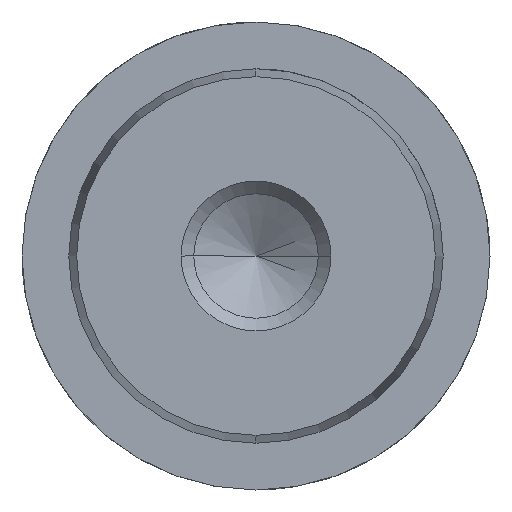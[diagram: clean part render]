
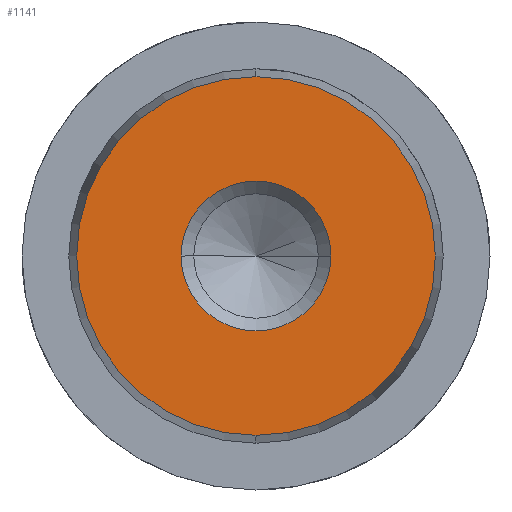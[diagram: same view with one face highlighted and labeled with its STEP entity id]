
A CAD part, left-side view. The second image highlights one B-rep face of the part: STEP entity #1141.
In plain terms, the highlighted planar face has unit normal (-1, 0, 0).
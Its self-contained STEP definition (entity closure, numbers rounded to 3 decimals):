
#1055=CARTESIAN_POINT('Vertex',(0.,0.,-9.578)) ;
#1058=CARTESIAN_POINT('Axis2P3D Location',(0.,0.,0.)) ;
#1062=CARTESIAN_POINT('Vertex',(0.,9.578,0.)) ;
#1065=CARTESIAN_POINT('Axis2P3D Location',(0.,0.,0.)) ;
#1069=CARTESIAN_POINT('Vertex',(0.,0.,9.578)) ;
#1091=CARTESIAN_POINT('Axis2P3D Location',(0.,0.,0.)) ;
#1095=CARTESIAN_POINT('Vertex',(0.,-9.578,0.)) ;
#1098=CARTESIAN_POINT('Axis2P3D Location',(0.,0.,0.)) ;
#1112=CARTESIAN_POINT('Axis2P3D Location',(0.,0.,0.)) ;
#1123=CARTESIAN_POINT('Axis2P3D Location',(0.,0.,0.)) ;
#1127=CARTESIAN_POINT('Vertex',(0.,4.,0.)) ;
#1129=CARTESIAN_POINT('Vertex',(0.,-4.,0.)) ;
#1132=CARTESIAN_POINT('Axis2P3D Location',(0.,0.,0.)) ;
#1059=DIRECTION('Axis2P3D Direction',(1.,-0.,0.)) ;
#1066=DIRECTION('Axis2P3D Direction',(1.,-0.,0.)) ;
#1092=DIRECTION('Axis2P3D Direction',(1.,0.,-0.)) ;
#1099=DIRECTION('Axis2P3D Direction',(1.,0.,-0.)) ;
#1113=DIRECTION('Axis2P3D Direction',(1.,0.,-0.)) ;
#1114=DIRECTION('Axis2P3D XDirection',(-0.,0.,-1.)) ;
#1124=DIRECTION('Axis2P3D Direction',(1.,0.,-0.)) ;
#1133=DIRECTION('Axis2P3D Direction',(1.,0.,-0.)) ;
#1060=AXIS2_PLACEMENT_3D('Circle Axis2P3D',#1058,#1059,$) ;
#1067=AXIS2_PLACEMENT_3D('Circle Axis2P3D',#1065,#1066,$) ;
#1093=AXIS2_PLACEMENT_3D('Circle Axis2P3D',#1091,#1092,$) ;
#1100=AXIS2_PLACEMENT_3D('Circle Axis2P3D',#1098,#1099,$) ;
#1115=AXIS2_PLACEMENT_3D('Plane Axis2P3D',#1112,#1113,#1114) ;
#1125=AXIS2_PLACEMENT_3D('Circle Axis2P3D',#1123,#1124,$) ;
#1134=AXIS2_PLACEMENT_3D('Circle Axis2P3D',#1132,#1133,$) ;
#1118=ORIENTED_EDGE('',*,*,#1064,.F.) ;
#1119=ORIENTED_EDGE('',*,*,#1102,.F.) ;
#1120=ORIENTED_EDGE('',*,*,#1097,.F.) ;
#1121=ORIENTED_EDGE('',*,*,#1071,.F.) ;
#1138=ORIENTED_EDGE('',*,*,#1131,.T.) ;
#1139=ORIENTED_EDGE('',*,*,#1136,.T.) ;
#1140=FACE_BOUND('',#1137,.T.) ;
#1141=ADVANCED_FACE('719-20x200',(#1122,#1140),#1116,.F.) ;
#1061=CIRCLE('generated circle',#1060,9.578) ;
#1068=CIRCLE('generated circle',#1067,9.578) ;
#1094=CIRCLE('generated circle',#1093,9.578) ;
#1101=CIRCLE('generated circle',#1100,9.578) ;
#1126=CIRCLE('generated circle',#1125,4.) ;
#1135=CIRCLE('generated circle',#1134,4.) ;
#1064=EDGE_CURVE('',#1056,#1063,#1061,.T.) ;
#1071=EDGE_CURVE('',#1063,#1070,#1068,.T.) ;
#1097=EDGE_CURVE('',#1070,#1096,#1094,.T.) ;
#1102=EDGE_CURVE('',#1096,#1056,#1101,.T.) ;
#1131=EDGE_CURVE('',#1128,#1130,#1126,.T.) ;
#1136=EDGE_CURVE('',#1130,#1128,#1135,.T.) ;
#1117=EDGE_LOOP('',(#1118,#1119,#1120,#1121)) ;
#1137=EDGE_LOOP('',(#1138,#1139)) ;
#1122=FACE_OUTER_BOUND('',#1117,.T.) ;
#1116=PLANE('Plane',#1115) ;
#1056=VERTEX_POINT('',#1055) ;
#1063=VERTEX_POINT('',#1062) ;
#1070=VERTEX_POINT('',#1069) ;
#1096=VERTEX_POINT('',#1095) ;
#1128=VERTEX_POINT('',#1127) ;
#1130=VERTEX_POINT('',#1129) ;
